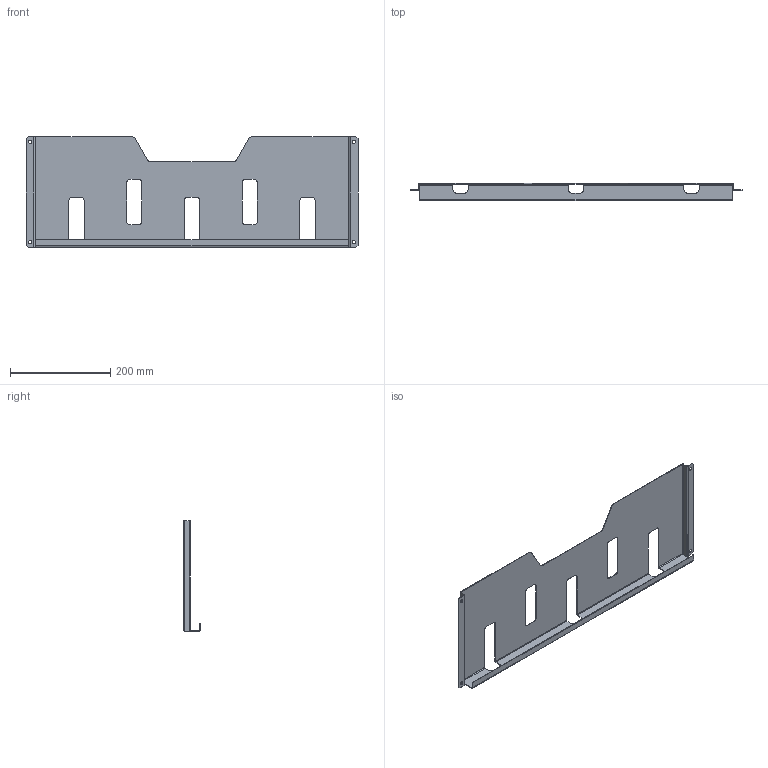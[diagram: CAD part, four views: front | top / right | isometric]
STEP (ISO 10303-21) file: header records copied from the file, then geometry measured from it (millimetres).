
FILE_DESCRIPTION (( 'STEP AP203' ), '1' );
FILE_NAME ('DP 80 M Êàðìàí äëÿ äîêóìåíòàöèè v2.STEP', '2021-01-19T13:12:49', ( '' ), ( '' ), 'SwSTEP 2.0', 'SolidWorks 2018', '' );
FILE_SCHEMA (( 'CONFIG_CONTROL_DESIGN' ));
Length unit declared in the file: millimetre
Products named in the file (1): DP 80 M Êàðìàí äëÿ äîêóìåíòàöèè v2
Bounding box: 661.2 x 34 x 220 mm (x, y, z)
Volume: 212475.7 mm3; surface area: 308210.4 mm2
Topology: 1 solids, 1 shells, 122 faces, 330 edges, 204 vertices
Faces by surface type: plane 72, cylinder 50
Entity records: 3903 total; most frequent: DIRECTION 676, ORIENTED_EDGE 660, CARTESIAN_POINT 657, EDGE_CURVE 330, LINE 230, VECTOR 230, AXIS2_PLACEMENT_3D 223, VERTEX_POINT 204
